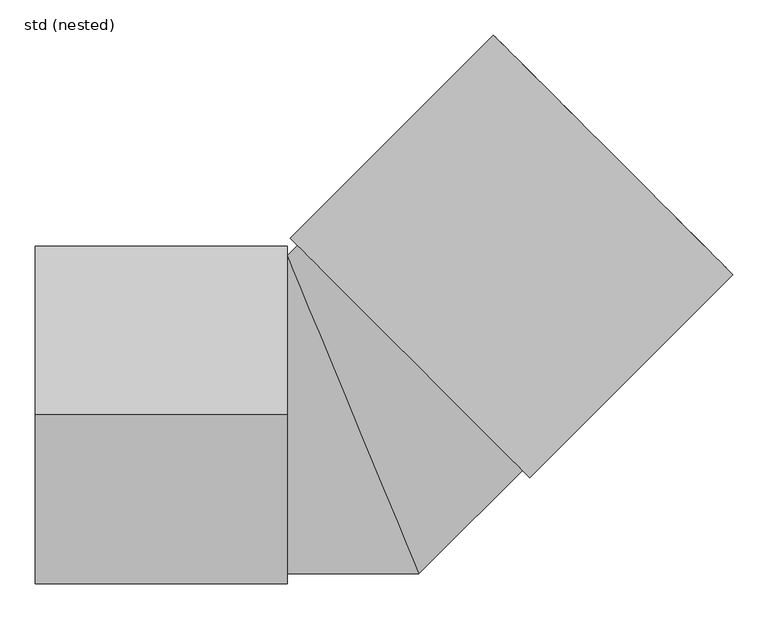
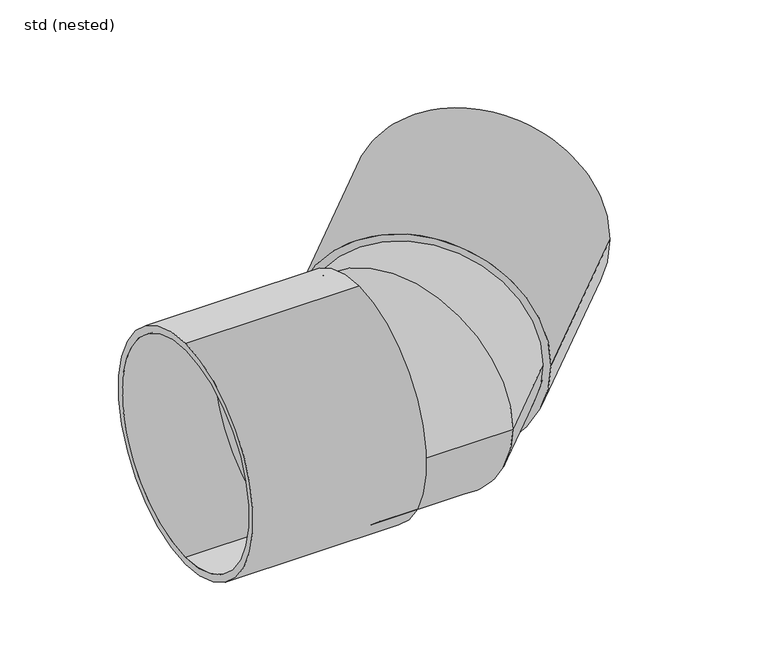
"""IFC4 building model written with IfcOpenShell, lengths in millimetres: pipe fitting geometry, NLRS_52_PIF_WPB_Ultra Kyma bocht 1MV SH_Dyka : std (nested)."""

from ifc_helpers import new_model, si_unit, point, frame, origin, origin_2d, place, context, project, spatial, circle_curve, ellipse_curve, trimmed, segment, composite_curve, outline, extrude, source, transform, mapped, element, save
from ifc_brep_helpers import plane_surface, cylinder_surface, advanced_brep


def std_nested_117703c5(model_context):
    return source(origin(), model_context, "Body", "SolidModel", [
        advanced_brep(
        [(-141.834915, -227.0, 0.0), (94.0044546, -227.0, 0.0), (-94.0044546, 227.0, 0.0), (-141.834915, 227.0, 0.0), (-141.834915, 0.0, 227.0), (-141.834915, 0.0, -227.0), (260.7956914, -60.2640063, 0.0), (-60.1776103, 260.8156405, 0.0), (-264.0, 0.0, -227.0), (-264.0, 0.0, 227.0), (55.2166361, 376.1716671, 0.0), (376.1899378, 55.0920203, 0.0)],
        [
            (0, 1),
            (1, 2, ellipse_curve(frame((0.0, 0.0, 0.0), z_axis=(-0.9239112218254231, -0.3826069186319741, 0.0), x_axis=(-0.3826069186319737, 0.9239112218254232, 0.0)), 245.6946021, 227.0)),
            (2, 3),
            (3, 4, circle_curve(frame((-141.834915, 0.0, 0.0), z_axis=(1.0, 0.0, 0.0), x_axis=(0.0, 1.0, 0.0)), 227.0)),
            (4, 0, circle_curve(frame((-141.834915, 0.0, 0.0), z_axis=(1.0, 0.0, 0.0), x_axis=(0.0, 1.0, 0.0)), 227.0)),
            (0, 5, circle_curve(frame((-141.834915, 0.0, 0.0), z_axis=(1.0, 0.0, 0.0), x_axis=(0.0, 1.0, 0.0)), 227.0)),
            (5, 3, circle_curve(frame((-141.834915, 0.0, 0.0), z_axis=(1.0, 0.0, 0.0), x_axis=(0.0, 1.0, 0.0)), 227.0)),
            (2, 1, ellipse_curve(frame((0.0, 0.0, 0.0), z_axis=(-0.9239112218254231, -0.3826069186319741, 0.0), x_axis=(-0.3826069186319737, 0.9239112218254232, 0.0)), 245.6946021, 227.0)),
            (1, 6),
            (6, 7, circle_curve(frame((100.3090406, 100.2758171, 0.0), z_axis=(-0.7072238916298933, -0.7069896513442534, 0.0), x_axis=(-0.7069896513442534, 0.7072238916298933, 0.0)), 227.0)),
            (7, 2),
            (7, 6, circle_curve(frame((100.3090406, 100.2758171, 0.0), z_axis=(-0.7072238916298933, -0.7069896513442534, 0.0), x_axis=(-0.7069896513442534, 0.7072238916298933, 0.0)), 227.0)),
            (8, 9, circle_curve(frame((-264.0, 0.0, 0.0), z_axis=(-1.0, 0.0, 0.0), x_axis=(0.0, 0.0, 1.0)), 227.0)),
            (9, 8, circle_curve(frame((-264.0, 0.0, 0.0), z_axis=(-1.0, 0.0, 0.0), x_axis=(0.0, 0.0, 1.0)), 227.0)),
            (8, 5),
            (4, 9),
            (10, 11, circle_curve(frame((215.7032869, 215.6318437, 0.0), z_axis=(0.7072238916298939, 0.7069896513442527, 0.0), x_axis=(0.7069896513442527, -0.7072238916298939, 0.0)), 227.0)),
            (11, 10, circle_curve(frame((215.7032869, 215.6318437, 0.0), z_axis=(0.7072238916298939, 0.7069896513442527, 0.0), x_axis=(0.7069896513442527, -0.7072238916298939, 0.0)), 227.0)),
            (10, 7),
            (6, 11),
        ],
        [
            cylinder_surface(frame((-141.834915, 0.0, 0.0), z_axis=(-1.0, 0.0, 0.0), x_axis=(0.0, 1.0, 0.0)), 227.0),
            cylinder_surface(frame((0.0, 0.0, 0.0), z_axis=(-0.7072238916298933, -0.7069896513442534, 0.0), x_axis=(-0.7069896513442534, 0.7072238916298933, 0.0)), 227.0),
            plane_surface(frame((-264.0, 0.0, 227.0), z_axis=(-1.0, 0.0, 0.0), x_axis=(0.0, 1.0, 0.0))),
            cylinder_surface(frame((-141.834915, 0.0, 0.0), z_axis=(-1.0, 0.0, 0.0), x_axis=(0.0, 0.0, 1.0)), 227.0),
            plane_surface(frame((376.1899378, 55.0920203, 0.0), z_axis=(0.707223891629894, 0.7069896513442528, 0.0), x_axis=(0.0, 0.0, -1.0))),
            cylinder_surface(frame((100.3090406, 100.2758171, 0.0), z_axis=(0.7072238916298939, 0.7069896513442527, 0.0), x_axis=(0.7069896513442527, -0.7072238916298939, 0.0)), 227.0),
        ],
        [
            (0, [[1, 2, 3, 4, 5]]),
            (0, [[-1, 6, 7, -3, 8]]),
            (1, [[-2, 9, 10, 11]]),
            (1, [[-8, -11, 12, -9]]),
            (2, [[13, 14]]),
            (3, [[-13, 15, -6, -5, 16]]),
            (3, [[-14, -16, -4, -7, -15]]),
            (4, [[17, 18]]),
            (5, [[-17, 19, -10, 20]]),
            (5, [[-18, -20, -12, -19]]),
        ],
    ),
        extrude(outline(composite_curve([segment(trimmed(circle_curve(origin_2d(), 242.0), [point((0.0, 242.0))], [point((0.0, -242.0))], False, "CARTESIAN"), True, "CONTINUOUS"), segment(trimmed(circle_curve(origin_2d(), 242.0), [point((0.0, -242.0))], [point((0.0, 242.0))], False, "CARTESIAN"), True, "CONTINUOUS")], self_intersect=False), holes=[composite_curve([segment(trimmed(circle_curve(origin_2d(), 227.0), [point((0.0, -227.0))], [point((0.0, 227.0))], True, "CARTESIAN"), True, "CONTINUOUS"), segment(trimmed(circle_curve(origin_2d(), 227.0), [point((0.0, 227.0))], [point((0.0, -227.0))], True, "CARTESIAN"), True, "CONTINUOUS")], self_intersect=False)]), frame((-454.0, 0.0, 0.0), z_axis=(1.0, 0.0, 0.0), x_axis=(0.0, 1.0, 0.0)), (0.0, 0.0, 1.0), 359.9735213),
        extrude(outline(composite_curve([segment(trimmed(circle_curve(origin_2d(), 242.0), [point((-242.0, 0.0))], [point((242.0000001, 0.0))], False, "CARTESIAN"), True, "CONTINUOUS"), segment(trimmed(circle_curve(origin_2d(), 242.0), [point((242.0000001, 0.0))], [point((-242.0, 0.0))], False, "CARTESIAN"), True, "CONTINUOUS")], self_intersect=False), holes=[composite_curve([segment(trimmed(circle_curve(origin_2d(), 227.0), [point((227.0, 0.0))], [point((-227.0, 0.0))], True, "CARTESIAN"), True, "CONTINUOUS"), segment(trimmed(circle_curve(origin_2d(), 227.0), [point((-227.0, 0.0))], [point((227.0, 0.0))], True, "CARTESIAN"), True, "CONTINUOUS")], self_intersect=False)]), frame((81.3307475, 81.3038099, 0.0), z_axis=(0.7072238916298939, 0.7069896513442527, 0.0), x_axis=(0.7069896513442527, -0.7072238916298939, 0.0)), (0.0, 0.0, 1.0), 410.0),
    ])


if __name__ == "__main__":
    model = new_model("IFC4")
    model_context = context("Model", 3, world=origin())
    ifc_project = project(units=[si_unit("LENGTHUNIT", "METRE", prefix="MILLI")], contexts=[model_context])
    site = spatial("IfcSite", under=ifc_project)
    building = spatial("IfcBuilding", under=site)
    placement = place(None, origin())
    std_nested_shape = std_nested_117703c5(model_context)
    element("IfcPipeFitting", 1, ObjectType="NLRS_52_PIF_WPB_Ultra Kyma bocht 1MV SH_Dyka : std (nested)", at=placement, inside=building, context=model_context, shape_type="MappedRepresentation", body=[
        mapped(std_nested_shape, transform((0.0, 0.0, 0.0), x_axis=(1.0, 0.0, 0.0), y_axis=(0.0, 1.0, 0.0), z_axis=(0.0, 0.0, 1.0))),
    ])
    save(model, "model.ifc")
